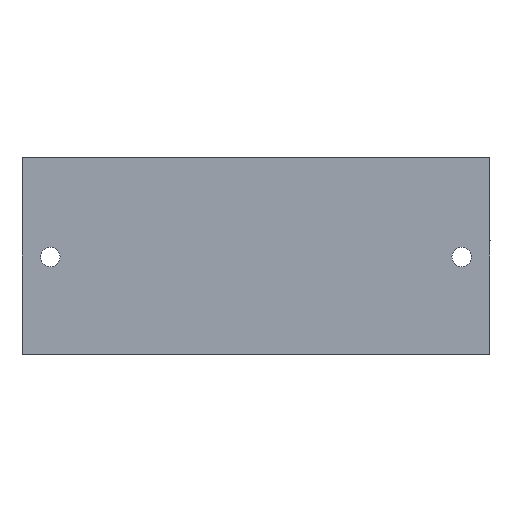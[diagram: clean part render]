
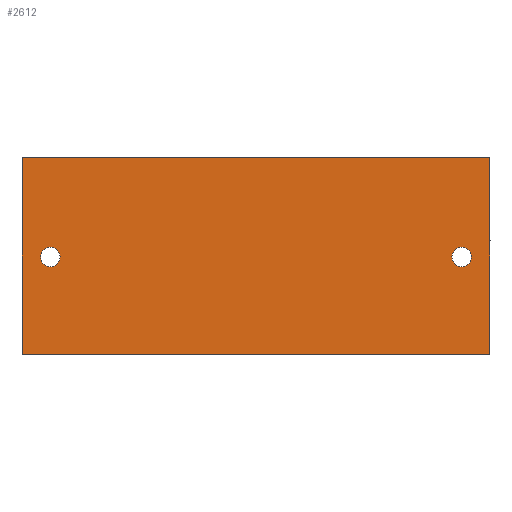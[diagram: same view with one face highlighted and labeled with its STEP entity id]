
A CAD part, front view. The second image highlights one B-rep face of the part: STEP entity #2612.
In plain terms, the highlighted planar face has unit normal (0, -1, 0).
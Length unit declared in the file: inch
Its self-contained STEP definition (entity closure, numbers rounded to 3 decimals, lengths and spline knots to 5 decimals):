
#197 = ORIENTED_EDGE ( 'NONE', *, *, #10227, .T. ) ;
#485 = FACE_BOUND ( 'NONE', #5966, .T. ) ;
#943 = CARTESIAN_POINT ( 'NONE',  ( -8.25, 0., 0. ) ) ;
#972 = AXIS2_PLACEMENT_3D ( 'NONE', #2782, #9879, #3838 ) ;
#1428 = DIRECTION ( 'NONE',  ( 0., 0., -1. ) ) ;
#1459 = LINE ( 'NONE', #1472, #4618 ) ;
#1472 = CARTESIAN_POINT ( 'NONE',  ( 0., 0., 0. ) ) ;
#1477 = DIRECTION ( 'NONE',  ( 0., 0., -1. ) ) ;
#1605 = CARTESIAN_POINT ( 'NONE',  ( -8.25, 0., 0. ) ) ;
#1734 = VERTEX_POINT ( 'NONE', #7242 ) ;
#1917 = EDGE_CURVE ( 'NONE', #10967, #5383, #9276, .T. ) ;
#2237 = EDGE_LOOP ( 'NONE', ( #5060, #5238, #10687, #2775 ) ) ;
#2375 = VERTEX_POINT ( 'NONE', #943 ) ;
#2505 = CARTESIAN_POINT ( 'NONE',  ( -8.25, 0., -3.466 ) ) ;
#2558 = DIRECTION ( 'NONE',  ( 1., 0., 0. ) ) ;
#2612 = ADVANCED_FACE ( 'NONE', ( #3359, #485, #11079 ), #2719, .T. ) ;
#2632 = DIRECTION ( 'NONE',  ( 0., 0., -1. ) ) ;
#2652 = DIRECTION ( 'NONE',  ( 0., -1., 0. ) ) ;
#2719 = PLANE ( 'NONE',  #11589 ) ;
#2747 = CARTESIAN_POINT ( 'NONE',  ( -8.25, 0., 0. ) ) ;
#2775 = ORIENTED_EDGE ( 'NONE', *, *, #9070, .T. ) ;
#2782 = CARTESIAN_POINT ( 'NONE',  ( -7.75, 0., -1.75 ) ) ;
#2969 = LINE ( 'NONE', #5727, #3295 ) ;
#3125 = VERTEX_POINT ( 'NONE', #7807 ) ;
#3150 = ORIENTED_EDGE ( 'NONE', *, *, #8897, .T. ) ;
#3295 = VECTOR ( 'NONE', #6324, 39.37008 ) ;
#3359 = FACE_BOUND ( 'NONE', #5647, .T. ) ;
#3838 = DIRECTION ( 'NONE',  ( 0., 0., 1. ) ) ;
#4063 = DIRECTION ( 'NONE',  ( 0., 0., 1. ) ) ;
#4088 = DIRECTION ( 'NONE',  ( 0., 1., 0. ) ) ;
#4091 = CARTESIAN_POINT ( 'NONE',  ( -7.75, 0., -1.75 ) ) ;
#4182 = DIRECTION ( 'NONE',  ( 0., 0., 1. ) ) ;
#4186 = DIRECTION ( 'NONE',  ( 0., 1., 0. ) ) ;
#4216 = CARTESIAN_POINT ( 'NONE',  ( -0.5, 0., -1.75 ) ) ;
#4555 = CARTESIAN_POINT ( 'NONE',  ( -7.75, 0., -1.922 ) ) ;
#4618 = VECTOR ( 'NONE', #1428, 39.37008 ) ;
#4700 = CARTESIAN_POINT ( 'NONE',  ( -0.5, 0., -1.922 ) ) ;
#5060 = ORIENTED_EDGE ( 'NONE', *, *, #9173, .F. ) ;
#5238 = ORIENTED_EDGE ( 'NONE', *, *, #8744, .F. ) ;
#5383 = VERTEX_POINT ( 'NONE', #7819 ) ;
#5647 = EDGE_LOOP ( 'NONE', ( #3150, #197 ) ) ;
#5727 = CARTESIAN_POINT ( 'NONE',  ( -8.25, 0., 0. ) ) ;
#5966 = EDGE_LOOP ( 'NONE', ( #9917, #10520 ) ) ;
#5972 = DIRECTION ( 'NONE',  ( 0., 0., 1. ) ) ;
#5984 = DIRECTION ( 'NONE',  ( 0., 1., 0. ) ) ;
#5998 = CARTESIAN_POINT ( 'NONE',  ( -0.5, 0., -1.75 ) ) ;
#6127 = AXIS2_PLACEMENT_3D ( 'NONE', #4216, #4186, #4182 ) ;
#6183 = AXIS2_PLACEMENT_3D ( 'NONE', #4091, #4088, #4063 ) ;
#6324 = DIRECTION ( 'NONE',  ( 1., 0., 0. ) ) ;
#6521 = CIRCLE ( 'NONE', #6183, 0.172 ) ;
#6834 = CIRCLE ( 'NONE', #972, 0.172 ) ;
#7242 = CARTESIAN_POINT ( 'NONE',  ( -7.75, 0., -1.578 ) ) ;
#7623 = LINE ( 'NONE', #2505, #10553 ) ;
#7807 = CARTESIAN_POINT ( 'NONE',  ( -8.25, 0., -3.466 ) ) ;
#7819 = CARTESIAN_POINT ( 'NONE',  ( -0.5, 0., -1.578 ) ) ;
#8201 = VERTEX_POINT ( 'NONE', #10383 ) ;
#8744 = EDGE_CURVE ( 'NONE', #2375, #8201, #2969, .T. ) ;
#8879 = EDGE_CURVE ( 'NONE', #5383, #10967, #12086, .T. ) ;
#8897 = EDGE_CURVE ( 'NONE', #1734, #11722, #6521, .T. ) ;
#9070 = EDGE_CURVE ( 'NONE', #3125, #11318, #7623, .T. ) ;
#9156 = EDGE_CURVE ( 'NONE', #2375, #3125, #11933, .T. ) ;
#9173 = EDGE_CURVE ( 'NONE', #8201, #11318, #1459, .T. ) ;
#9276 = CIRCLE ( 'NONE', #12260, 0.172 ) ;
#9333 = VECTOR ( 'NONE', #1477, 39.37008 ) ;
#9879 = DIRECTION ( 'NONE',  ( 0., 1., 0. ) ) ;
#9917 = ORIENTED_EDGE ( 'NONE', *, *, #8879, .T. ) ;
#9945 = CARTESIAN_POINT ( 'NONE',  ( 0., 0., -3.466 ) ) ;
#10227 = EDGE_CURVE ( 'NONE', #11722, #1734, #6834, .T. ) ;
#10383 = CARTESIAN_POINT ( 'NONE',  ( 0., 0., 0. ) ) ;
#10520 = ORIENTED_EDGE ( 'NONE', *, *, #1917, .T. ) ;
#10553 = VECTOR ( 'NONE', #2558, 39.37008 ) ;
#10687 = ORIENTED_EDGE ( 'NONE', *, *, #9156, .T. ) ;
#10967 = VERTEX_POINT ( 'NONE', #4700 ) ;
#11079 = FACE_OUTER_BOUND ( 'NONE', #2237, .T. ) ;
#11318 = VERTEX_POINT ( 'NONE', #9945 ) ;
#11589 = AXIS2_PLACEMENT_3D ( 'NONE', #2747, #2652, #2632 ) ;
#11722 = VERTEX_POINT ( 'NONE', #4555 ) ;
#11933 = LINE ( 'NONE', #1605, #9333 ) ;
#12086 = CIRCLE ( 'NONE', #6127, 0.172 ) ;
#12260 = AXIS2_PLACEMENT_3D ( 'NONE', #5998, #5984, #5972 ) ;
